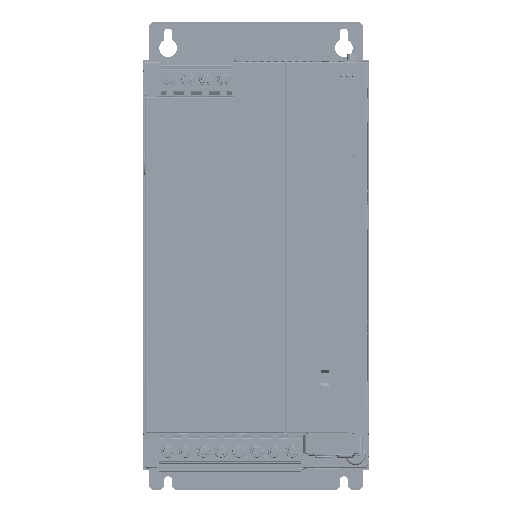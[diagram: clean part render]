
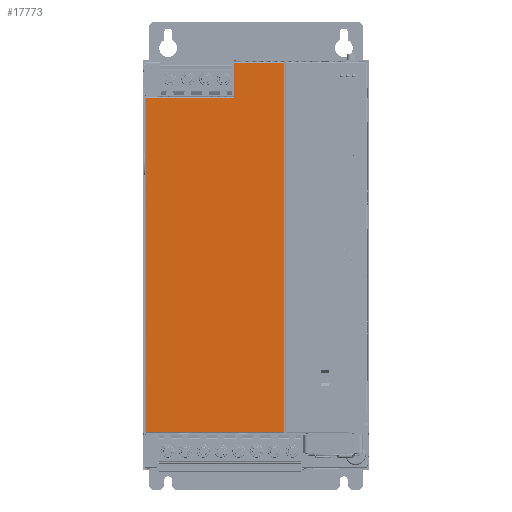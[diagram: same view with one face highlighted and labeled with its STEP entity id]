
A CAD part, top view. The second image highlights one B-rep face of the part: STEP entity #17773.
In plain terms, the highlighted planar face has unit normal (0, 0, 1) as drawn and (0, 1, 0) by its records, which use the part's own axes.
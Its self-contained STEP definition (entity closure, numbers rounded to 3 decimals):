
#6047 = ORIENTED_EDGE ( 'NONE', *, *, #133565, .T. ) ;
#6054 = ORIENTED_EDGE ( 'NONE', *, *, #133231, .F. ) ;
#6060 = ORIENTED_EDGE ( 'NONE', *, *, #133536, .T. ) ;
#6066 = ORIENTED_EDGE ( 'NONE', *, *, #133251, .T. ) ;
#6073 = ORIENTED_EDGE ( 'NONE', *, *, #133308, .T. ) ;
#6079 = ORIENTED_EDGE ( 'NONE', *, *, #133538, .T. ) ;
#6085 = ORIENTED_EDGE ( 'NONE', *, *, #133304, .T. ) ;
#6092 = ORIENTED_EDGE ( 'NONE', *, *, #133394, .T. ) ;
#6099 = ORIENTED_EDGE ( 'NONE', *, *, #133540, .T. ) ;
#6107 = ORIENTED_EDGE ( 'NONE', *, *, #133383, .F. ) ;
#6111 = ORIENTED_EDGE ( 'NONE', *, *, #133542, .T. ) ;
#6116 = ORIENTED_EDGE ( 'NONE', *, *, #133547, .T. ) ;
#6126 = ORIENTED_EDGE ( 'NONE', *, *, #133551, .T. ) ;
#6132 = ORIENTED_EDGE ( 'NONE', *, *, #133420, .F. ) ;
#6137 = ORIENTED_EDGE ( 'NONE', *, *, #133553, .T. ) ;
#6144 = ORIENTED_EDGE ( 'NONE', *, *, #133432, .T. ) ;
#6150 = ORIENTED_EDGE ( 'NONE', *, *, #133558, .T. ) ;
#6157 = ORIENTED_EDGE ( 'NONE', *, *, #133562, .T. ) ;
#17773 = ADVANCED_FACE ( 'NONE', ( #262647 ), #164869, .T. ) ;
#105594 = LINE ( 'NONE', #108974, #105597 ) ;
#105597 = VECTOR ( 'NONE', #108969, 1000. ) ;
#105607 = LINE ( 'NONE', #109006, #105613 ) ;
#105613 = VECTOR ( 'NONE', #109010, 1000. ) ;
#105680 = LINE ( 'NONE', #109193, #105693 ) ;
#105681 = LINE ( 'NONE', #109181, #105690 ) ;
#105690 = VECTOR ( 'NONE', #109185, 1000. ) ;
#105693 = VECTOR ( 'NONE', #109168, 1000. ) ;
#105820 = LINE ( 'NONE', #109487, #105825 ) ;
#105825 = VECTOR ( 'NONE', #109494, 1000. ) ;
#105835 = LINE ( 'NONE', #109548, #105842 ) ;
#105842 = VECTOR ( 'NONE', #109556, 1000. ) ;
#105886 = LINE ( 'NONE', #109640, #105893 ) ;
#105893 = VECTOR ( 'NONE', #109596, 1000. ) ;
#105899 = LINE ( 'NONE', #109752, #105907 ) ;
#105907 = VECTOR ( 'NONE', #109781, 1000. ) ;
#106072 = LINE ( 'NONE', #110490, #106225 ) ;
#106151 = LINE ( 'NONE', #110407, #106162 ) ;
#106158 = LINE ( 'NONE', #110420, #106167 ) ;
#106162 = VECTOR ( 'NONE', #110415, 1000. ) ;
#106164 = LINE ( 'NONE', #110431, #106173 ) ;
#106167 = VECTOR ( 'NONE', #110428, 1000. ) ;
#106169 = LINE ( 'NONE', #110442, #106178 ) ;
#106173 = VECTOR ( 'NONE', #110438, 1000. ) ;
#106178 = VECTOR ( 'NONE', #110449, 1000. ) ;
#106181 = LINE ( 'NONE', #110246, #106188 ) ;
#106188 = VECTOR ( 'NONE', #110223, 1000. ) ;
#106190 = LINE ( 'NONE', #110454, #106196 ) ;
#106193 = LINE ( 'NONE', #110509, #106202 ) ;
#106196 = VECTOR ( 'NONE', #110461, 1000. ) ;
#106202 = VECTOR ( 'NONE', #110516, 1000. ) ;
#106205 = LINE ( 'NONE', #110531, #106213 ) ;
#106213 = VECTOR ( 'NONE', #110537, 1000. ) ;
#106220 = LINE ( 'NONE', #110561, #106231 ) ;
#106225 = VECTOR ( 'NONE', #110553, 1000. ) ;
#106231 = VECTOR ( 'NONE', #110569, 1000. ) ;
#108969 = DIRECTION ( 'NONE',  ( 0., 0., 1. ) ) ;
#108974 = CARTESIAN_POINT ( 'NONE',  ( -20.4, 20., -111.25 ) ) ;
#109006 = CARTESIAN_POINT ( 'NONE',  ( -93.55, 20., -111.05 ) ) ;
#109010 = DIRECTION ( 'NONE',  ( 0., 0., 1. ) ) ;
#109168 = DIRECTION ( 'NONE',  ( -1., 0., 0. ) ) ;
#109181 = CARTESIAN_POINT ( 'NONE',  ( -93.55, 20., 170.05 ) ) ;
#109185 = DIRECTION ( 'NONE',  ( 1., 0., 0. ) ) ;
#109193 = CARTESIAN_POINT ( 'NONE',  ( -94.75, 20., -111.05 ) ) ;
#109487 = CARTESIAN_POINT ( 'NONE',  ( 22.8, 20., 171.25 ) ) ;
#109494 = DIRECTION ( 'NONE',  ( 0., 0., 1. ) ) ;
#109548 = CARTESIAN_POINT ( 'NONE',  ( -93.55, 20., 171.25 ) ) ;
#109556 = DIRECTION ( 'NONE',  ( 0., 0., 1. ) ) ;
#109596 = DIRECTION ( 'NONE',  ( 0., 0., 1. ) ) ;
#109640 = CARTESIAN_POINT ( 'NONE',  ( 22.8, 20., -140.75 ) ) ;
#109752 = CARTESIAN_POINT ( 'NONE',  ( -18.2, 20., -141.25 ) ) ;
#109781 = DIRECTION ( 'NONE',  ( 0., 0., 1. ) ) ;
#110223 = DIRECTION ( 'NONE',  ( 0., 0., -1. ) ) ;
#110246 = CARTESIAN_POINT ( 'NONE',  ( 23., 20., 171.25 ) ) ;
#110407 = CARTESIAN_POINT ( 'NONE',  ( 24., 20., -111.25 ) ) ;
#110415 = DIRECTION ( 'NONE',  ( -1., 0., 0. ) ) ;
#110420 = CARTESIAN_POINT ( 'NONE',  ( -93.75, 20., 171.25 ) ) ;
#110428 = DIRECTION ( 'NONE',  ( 0., 0., 1. ) ) ;
#110431 = CARTESIAN_POINT ( 'NONE',  ( 24., 20., 170.25 ) ) ;
#110438 = DIRECTION ( 'NONE',  ( 1., 0., 0. ) ) ;
#110442 = CARTESIAN_POINT ( 'NONE',  ( 24., 20., 170.05 ) ) ;
#110449 = DIRECTION ( 'NONE',  ( 1., 0., 0. ) ) ;
#110454 = CARTESIAN_POINT ( 'NONE',  ( 24., 20., -140.55 ) ) ;
#110461 = DIRECTION ( 'NONE',  ( -1., 0., 0. ) ) ;
#110490 = CARTESIAN_POINT ( 'NONE',  ( -19.4, 20., 171.25 ) ) ;
#110509 = CARTESIAN_POINT ( 'NONE',  ( 24., 20., -140.75 ) ) ;
#110516 = DIRECTION ( 'NONE',  ( -1., 0., 0. ) ) ;
#110531 = CARTESIAN_POINT ( 'NONE',  ( 24., 20., -140.55 ) ) ;
#110537 = DIRECTION ( 'NONE',  ( -1., 0., 0. ) ) ;
#110553 = DIRECTION ( 'NONE',  ( 0., 0., 1. ) ) ;
#110561 = CARTESIAN_POINT ( 'NONE',  ( 24., 20., -111.05 ) ) ;
#110569 = DIRECTION ( 'NONE',  ( -1., 0., 0. ) ) ;
#133231 = EDGE_CURVE ( 'NONE', #149215, #149156, #105594, .T. ) ;
#133251 = EDGE_CURVE ( 'NONE', #148929, #149719, #105607, .T. ) ;
#133304 = EDGE_CURVE ( 'NONE', #148886, #149264, #105681, .T. ) ;
#133308 = EDGE_CURVE ( 'NONE', #149719, #148682, #105680, .T. ) ;
#133383 = EDGE_CURVE ( 'NONE', #149635, #148963, #105820, .T. ) ;
#133394 = EDGE_CURVE ( 'NONE', #149264, #148827, #105835, .T. ) ;
#133420 = EDGE_CURVE ( 'NONE', #149422, #149754, #105886, .T. ) ;
#133432 = EDGE_CURVE ( 'NONE', #148661, #149954, #105899, .T. ) ;
#133536 = EDGE_CURVE ( 'NONE', #149215, #148929, #106151, .T. ) ;
#133538 = EDGE_CURVE ( 'NONE', #148682, #148886, #106158, .T. ) ;
#133540 = EDGE_CURVE ( 'NONE', #148827, #148963, #106164, .T. ) ;
#133542 = EDGE_CURVE ( 'NONE', #149635, #149748, #106169, .T. ) ;
#133547 = EDGE_CURVE ( 'NONE', #149748, #149909, #106181, .T. ) ;
#133551 = EDGE_CURVE ( 'NONE', #149909, #149754, #106190, .T. ) ;
#133553 = EDGE_CURVE ( 'NONE', #149422, #148661, #106193, .T. ) ;
#133558 = EDGE_CURVE ( 'NONE', #149954, #149964, #106205, .T. ) ;
#133562 = EDGE_CURVE ( 'NONE', #149964, #149597, #106072, .T. ) ;
#133565 = EDGE_CURVE ( 'NONE', #149597, #149156, #106220, .T. ) ;
#148661 = VERTEX_POINT ( 'NONE', #255115 ) ;
#148682 = VERTEX_POINT ( 'NONE', #255120 ) ;
#148827 = VERTEX_POINT ( 'NONE', #255154 ) ;
#148886 = VERTEX_POINT ( 'NONE', #255168 ) ;
#148929 = VERTEX_POINT ( 'NONE', #255182 ) ;
#148963 = VERTEX_POINT ( 'NONE', #255196 ) ;
#149156 = VERTEX_POINT ( 'NONE', #255279 ) ;
#149215 = VERTEX_POINT ( 'NONE', #255306 ) ;
#149264 = VERTEX_POINT ( 'NONE', #255327 ) ;
#149422 = VERTEX_POINT ( 'NONE', #255400 ) ;
#149597 = VERTEX_POINT ( 'NONE', #255485 ) ;
#149635 = VERTEX_POINT ( 'NONE', #263672 ) ;
#149719 = VERTEX_POINT ( 'NONE', #263695 ) ;
#149748 = VERTEX_POINT ( 'NONE', #263703 ) ;
#149754 = VERTEX_POINT ( 'NONE', #263705 ) ;
#149909 = VERTEX_POINT ( 'NONE', #263749 ) ;
#149954 = VERTEX_POINT ( 'NONE', #263765 ) ;
#149964 = VERTEX_POINT ( 'NONE', #263768 ) ;
#157538 = EDGE_LOOP ( 'NONE', ( #6047, #6054, #6060, #6066, #6073, #6079, #6085, #6092, #6099, #6107, #6111, #6116, #6126, #6132, #6137, #6144, #6150, #6157 ) ) ;
#164869 = PLANE ( 'NONE',  #214050 ) ;
#164874 = CARTESIAN_POINT ( 'NONE',  ( 24., 20., 171.25 ) ) ;
#164890 = DIRECTION ( 'NONE',  ( 0., 1., 0. ) ) ;
#164892 = DIRECTION ( 'NONE',  ( 0., 0., 1. ) ) ;
#214050 = AXIS2_PLACEMENT_3D ( 'NONE', #164874, #164890, #164892 ) ;
#255115 = CARTESIAN_POINT ( 'NONE',  ( -18.2, 20., -140.75 ) ) ;
#255120 = CARTESIAN_POINT ( 'NONE',  ( -93.75, 20., -111.05 ) ) ;
#255154 = CARTESIAN_POINT ( 'NONE',  ( -93.55, 20., 170.25 ) ) ;
#255168 = CARTESIAN_POINT ( 'NONE',  ( -93.75, 20., 170.05 ) ) ;
#255182 = CARTESIAN_POINT ( 'NONE',  ( -93.55, 20., -111.25 ) ) ;
#255196 = CARTESIAN_POINT ( 'NONE',  ( 22.8, 20., 170.25 ) ) ;
#255279 = CARTESIAN_POINT ( 'NONE',  ( -20.4, 20., -111.05 ) ) ;
#255306 = CARTESIAN_POINT ( 'NONE',  ( -20.4, 20., -111.25 ) ) ;
#255327 = CARTESIAN_POINT ( 'NONE',  ( -93.55, 20., 170.05 ) ) ;
#255400 = CARTESIAN_POINT ( 'NONE',  ( 22.8, 20., -140.75 ) ) ;
#255485 = CARTESIAN_POINT ( 'NONE',  ( -19.4, 20., -111.05 ) ) ;
#262647 = FACE_OUTER_BOUND ( 'NONE', #157538, .T. ) ;
#263672 = CARTESIAN_POINT ( 'NONE',  ( 22.8, 20., 170.05 ) ) ;
#263695 = CARTESIAN_POINT ( 'NONE',  ( -93.55, 20., -111.05 ) ) ;
#263703 = CARTESIAN_POINT ( 'NONE',  ( 23., 20., 170.05 ) ) ;
#263705 = CARTESIAN_POINT ( 'NONE',  ( 22.8, 20., -140.55 ) ) ;
#263749 = CARTESIAN_POINT ( 'NONE',  ( 23., 20., -140.55 ) ) ;
#263765 = CARTESIAN_POINT ( 'NONE',  ( -18.2, 20., -140.55 ) ) ;
#263768 = CARTESIAN_POINT ( 'NONE',  ( -19.4, 20., -140.55 ) ) ;
